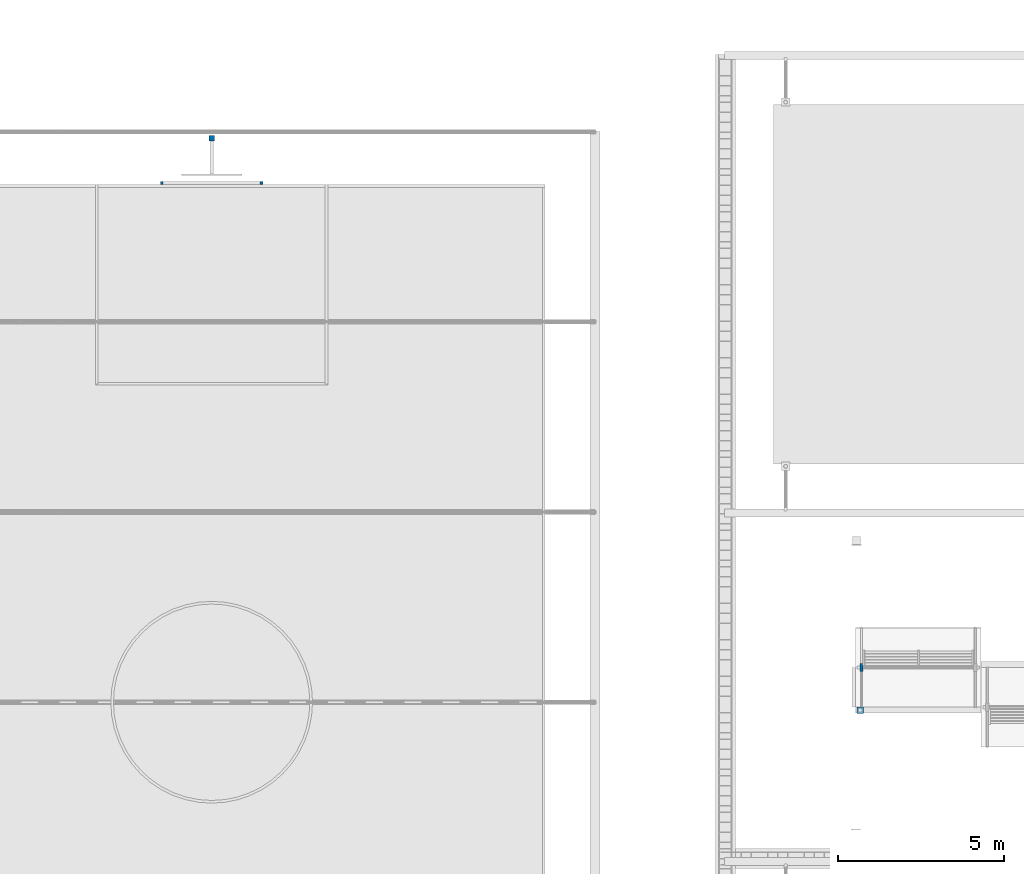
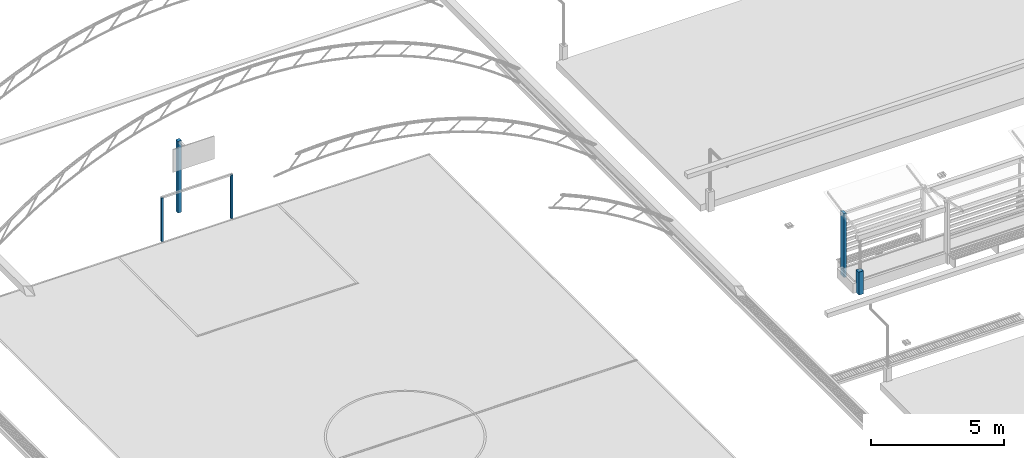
# One storey, part 5 of 90: 5 columns.
"""IFC2X3 building model written with IfcOpenShell, lengths in metres."""

import ifcopenshell
import ifcopenshell.guid

model = None  # the IFC model being written
_history = None  # IfcOwnerHistory: only IFC2X3 demands one
_inside = {}  # id of a spatial element -> (the spatial element, [elements in it])
_under = {}  # id of a project, library or spatial element -> (it, [spatial elements below it])
_declared = {}  # id of a project -> (the project, [libraries it declares])
_typed = {}  # id of a type object -> (the type object, [elements of that type])
_made_of = {}  # id of a material, layer set ... -> (it, [elements and type objects made of it])


def new_model(schema):
    """Start an empty IFC model of exactly this schema.

    Asked for "IFC4X3", IfcOpenShell would pick the latest addendum, in which some entities
    have other attributes; the version numbers below select the first issue.
    IFC2X3 requires an IfcOwnerHistory on every rooted entity: one is made here for all.
    """
    global model, _history
    if schema == "IFC4X3":
        model = ifcopenshell.file(schema_version=(4, 3, 0, 0))
    else:
        model = ifcopenshell.file(schema=schema)
    _inside.clear()
    _under.clear()
    _declared.clear()
    _typed.clear()
    _made_of.clear()
    _history = None
    if model.schema == "IFC2X3":
        org = make("IfcOrganization", Name="unknown")
        user = make(
            "IfcPersonAndOrganization",
            ThePerson=make("IfcPerson", FamilyName="unknown"),
            TheOrganization=org,
        )
        app = make(
            "IfcApplication",
            ApplicationDeveloper=org,
            Version="unknown",
            ApplicationFullName="unknown",
            ApplicationIdentifier="unknown",
        )
        _history = make(
            "IfcOwnerHistory",
            OwningUser=user,
            OwningApplication=app,
            ChangeAction="ADDED",
            CreationDate=0,
        )
    return model


def make(cls, **values):
    """One entity of the class cls with the attributes given. An attribute that is None is left unset."""
    return model.create_entity(
        cls, **{name: value for name, value in values.items() if value is not None}
    )


def rooted(cls, **values):
    """An entity with a GlobalId (a new one), such as an element, a storey or a relation."""
    return make(cls, GlobalId=ifcopenshell.guid.new(), OwnerHistory=_history, **values)


def si_unit(unit_type, name, prefix=None):
    """IfcSIUnit, for example si_unit("LENGTHUNIT", "METRE", prefix="MILLI")."""
    return make("IfcSIUnit", UnitType=unit_type, Prefix=prefix, Name=name)


def assignment(units):
    """IfcUnitAssignment: the units of a project."""
    return None if units is None else make("IfcUnitAssignment", Units=units)


def point(xyz):
    """IfcCartesianPoint."""
    return None if xyz is None else make("IfcCartesianPoint", Coordinates=xyz)


def direction(xyz):
    """IfcDirection."""
    return None if xyz is None else make("IfcDirection", DirectionRatios=xyz)


def frame(location, z_axis=None, x_axis=None):
    """IfcAxis2Placement3D, a coordinate frame: its origin and axes. An axis left out is left unset."""
    return make(
        "IfcAxis2Placement3D",
        Location=point(location),
        Axis=direction(z_axis),
        RefDirection=direction(x_axis),
    )


def origin():
    """The frame at (0, 0, 0) with its axes left unset."""
    return frame((0.0, 0.0, 0.0))


def origin_with_axes():
    """The frame at (0, 0, 0) with the z axis (0, 0, 1) and the x axis (1, 0, 0) written out."""
    return frame((0.0, 0.0, 0.0), z_axis=(0.0, 0.0, 1.0), x_axis=(1.0, 0.0, 0.0))


def place(relative_to, where):
    """IfcLocalPlacement: puts the frame where relative to a parent placement (None: the world)."""
    return make(
        "IfcLocalPlacement", PlacementRelTo=relative_to, RelativePlacement=where
    )


def context(
    kind, dimensions, precision=None, world=None, true_north=None, identifier=None
):
    """IfcGeometricRepresentationContext, for example the 3D "Model" context."""
    return make(
        "IfcGeometricRepresentationContext",
        ContextIdentifier=identifier,
        ContextType=kind,
        CoordinateSpaceDimension=dimensions,
        Precision=precision,
        WorldCoordinateSystem=world,
        TrueNorth=true_north,
    )


def subcontext(parent, identifier, kind, view, scale=None):
    """IfcGeometricRepresentationSubContext, for example "Body" below "Model"."""
    return make(
        "IfcGeometricRepresentationSubContext",
        ContextIdentifier=identifier,
        ContextType=kind,
        ParentContext=parent,
        TargetScale=scale,
        TargetView=view,
    )


def project(units=None, contexts=None):
    """IfcProject with its units and contexts."""
    return rooted(
        "IfcProject",
        Name="project",
        RepresentationContexts=contexts,
        UnitsInContext=assignment(units),
    )


def spatial(cls, under=None, at=None, **own):
    """A site, building, storey or space (cls), placed at a placement, below another one or the project."""
    s = rooted(cls, ObjectPlacement=at, **own)
    if under is not None:
        _under.setdefault(under.id(), (under, []))[1].append(s)
    return s


def faces_of(points, faces, orient=None, outer=None):
    """IfcFace entities. A face is a list of loops; a loop is a list of indices into points, from 0.

    orient and outer hold one flag for each loop. By default every Orientation is true, the
    first loop of a face is its IfcFaceOuterBound and the others are IfcFaceBound.
    """
    made = []
    for i, loops in enumerate(faces):
        bounds = []
        for j, loop in enumerate(loops):
            is_outer = j == 0 if outer is None else outer[i][j]
            bounds.append(
                make(
                    "IfcFaceOuterBound" if is_outer else "IfcFaceBound",
                    Bound=make("IfcPolyLoop", Polygon=[points[k] for k in loop]),
                    Orientation=True if orient is None else orient[i][j],
                )
            )
        made.append(make("IfcFace", Bounds=bounds))
    return made


def faceted_brep(points, faces, orient=None, outer=None, voids=None):
    """IfcFacetedBrep: a solid bounded by flat faces; with voids (closed shells), ...WithVoids."""
    shared = [point(p) for p in points]
    hull = make("IfcClosedShell", CfsFaces=faces_of(shared, faces, orient, outer))
    if voids is None:
        return make("IfcFacetedBrep", Outer=hull)
    return make(
        "IfcFacetedBrepWithVoids",
        Outer=hull,
        Voids=[
            make(cls, CfsFaces=faces_of(shared, fs, o, b)) for cls, fs, o, b in voids
        ],
    )


def shape(context_of_items, identifier, shape_type, items):
    """IfcShapeRepresentation: the items that make up one representation, for example the "Body"."""
    return make(
        "IfcShapeRepresentation",
        ContextOfItems=context_of_items,
        RepresentationIdentifier=identifier,
        RepresentationType=shape_type,
        Items=items,
    )


def made_of(thing, what):
    """Note that an element or type object is made of a material, layer set ...; save() writes the relation."""
    if what is not None:
        _made_of.setdefault(what.id(), (what, []))[1].append(thing)
    return thing


def element(
    cls,
    number,
    at=None,
    inside=None,
    cuts=None,
    type_object=None,
    material=None,
    context=None,
    identifier="Body",
    shape_type=None,
    held_by="IfcProductDefinitionShape",
    body=None,
    shapes=None,
    **own,
):
    """One element of the class cls, such as IfcWall. Its Tag is "e" and its number.

    at: its placement. inside: the storey or other place that contains it. cuts: it is an
    opening in that element (IfcRelVoidsElement). A single representation is given by context,
    identifier, shape_type and body (its items); several are given by shapes. held_by: the class
    of the entity that holds the representations. save() writes the other relations.
    """
    e = rooted(cls, Tag="e%d" % number, ObjectPlacement=at, **own)
    if body is not None:
        shapes = [shape(context, identifier, shape_type, body)]
    if shapes is not None:
        e.Representation = make(held_by, Representations=shapes)
    if inside is not None:
        _inside.setdefault(inside.id(), (inside, []))[1].append(e)
    if cuts is not None:
        rooted(
            "IfcRelVoidsElement", RelatingBuildingElement=cuts, RelatedOpeningElement=e
        )
    if type_object is not None:
        _typed.setdefault(type_object.id(), (type_object, []))[1].append(e)
    return made_of(e, material)


def aggregate(whole, parts):
    """IfcRelAggregates: a whole, such as a stair, and the parts it consists of."""
    return rooted("IfcRelAggregates", RelatingObject=whole, RelatedObjects=parts)


def save(model, path):
    """Write the relations noted so far, then the file.

    IfcRelAggregates (storeys below a building ...), IfcRelContainedInSpatialStructure (elements
    in a storey), IfcRelDefinesByType, IfcRelAssociatesMaterial and IfcRelDeclares: one each for
    every whole, place, type object, material and project.
    """
    for whole, parts in _under.values():
        aggregate(whole, parts)
    for where, things in _inside.values():
        rooted(
            "IfcRelContainedInSpatialStructure",
            RelatedElements=things,
            RelatingStructure=where,
        )
    for kind, things in _typed.values():
        rooted("IfcRelDefinesByType", RelatedObjects=things, RelatingType=kind)
    for what, things in _made_of.values():
        rooted("IfcRelAssociatesMaterial", RelatedObjects=things, RelatingMaterial=what)
    for by, libraries in _declared.values():
        rooted("IfcRelDeclares", RelatingContext=by, RelatedDefinitions=libraries)
    model.write(path)


model = new_model("IFC2X3")

# Units and contexts
model_context = context("Model", 3, precision=1e-05, world=origin_with_axes())
body_context = subcontext(model_context, "Body", "Model", "MODEL_VIEW")
ifc_project = project(units=[si_unit("LENGTHUNIT", "METRE"), si_unit("AREAUNIT", "SQUARE_METRE"), si_unit("VOLUMEUNIT", "CUBIC_METRE"), si_unit("PLANEANGLEUNIT", "RADIAN")], contexts=[model_context])

# Site, building, storey
site_placement = place(None, origin_with_axes())
site = spatial("IfcSite", under=ifc_project, at=site_placement, Name="Predio Los Mangos - Morales, San Martín", CompositionType="ELEMENT")
building_placement = place(site_placement, origin())
building = spatial("IfcBuilding", under=site, at=building_placement, Name="Hogar de Refugio Temporal", CompositionType="ELEMENT")
storey_placement = place(building_placement, origin())
storey = spatial("IfcBuildingStorey", under=building, at=storey_placement, Name="NIVEL 1 (NPT +0.00)", CompositionType="ELEMENT", Elevation=0.0)

# Columns
column_1_placement = place(storey_placement, origin())
element("IfcColumn", 1, at=column_1_placement, inside=storey, Name="poste_arco", ObjectType="Columna", context=body_context, shape_type="Brep", body=[
    faceted_brep([(13.51, 125.41, 0.12), (13.51, 125.49, 0.12), (13.59, 125.49, 0.12), (13.59, 125.41, 0.12), (13.51, 125.41, 2.12), (13.59, 125.41, 2.12), (13.59, 125.49, 2.12), (13.51, 125.49, 2.12)], [[[0, 1, 2, 3]], [[4, 5, 6, 7]], [[0, 3, 5, 4]], [[3, 2, 6, 5]], [[2, 1, 7, 6]], [[1, 0, 4, 7]]]),
])
column_2_placement = place(storey_placement, origin())
element("IfcColumn", 2, at=column_2_placement, inside=storey, Name="poste_arco", ObjectType="Columna", context=body_context, shape_type="Brep", body=[
    faceted_brep([(16.51, 125.41, 0.12), (16.51, 125.49, 0.12), (16.59, 125.49, 0.12), (16.59, 125.41, 0.12), (16.51, 125.41, 2.12), (16.59, 125.41, 2.12), (16.59, 125.49, 2.12), (16.51, 125.49, 2.12)], [[[0, 1, 2, 3]], [[4, 5, 6, 7]], [[0, 3, 5, 4]], [[3, 2, 6, 5]], [[2, 1, 7, 6]], [[1, 0, 4, 7]]]),
])
column_3_placement = place(storey_placement, origin())
element("IfcColumn", 3, at=column_3_placement, inside=storey, Name="poste_basquet", ObjectType="Columna", context=body_context, shape_type="Brep", body=[
    faceted_brep([(14.97, 126.72, 0.12), (14.97, 126.88, 0.12), (15.13, 126.88, 0.12), (15.13, 126.72, 0.12), (14.97, 126.72, 3.4), (15.13, 126.72, 3.4), (15.13, 126.88, 3.4), (14.97, 126.88, 3.4)], [[[0, 1, 2, 3]], [[4, 5, 6, 7]], [[0, 3, 5, 4]], [[3, 2, 6, 5]], [[2, 1, 7, 6]], [[1, 0, 4, 7]]]),
])
column_4_placement = place(storey_placement, origin())
element("IfcColumn", 4, at=column_4_placement, inside=storey, Name="oc01_columna", ObjectType="Columna", context=body_context, shape_type="Brep", body=[
    faceted_brep([(34.685, 110.975, 0.0), (34.685, 110.725, 0.0), (34.585, 110.725, 0.0), (34.585, 110.975, 0.0), (34.685, 110.975, 2.93), (34.585, 110.975, 2.93), (34.585, 110.725, 2.93), (34.685, 110.725, 2.93)], [[[0, 1, 2, 3]], [[4, 5, 6, 7]], [[0, 3, 5, 4]], [[3, 2, 6, 5]], [[2, 1, 7, 6]], [[1, 0, 4, 7]]]),
])
column_5_placement = place(storey_placement, origin())
element("IfcColumn", 5, at=column_5_placement, inside=storey, Name="oc01_falsa_columna", ObjectType="Falsa columna", context=body_context, shape_type="Brep", body=[
    faceted_brep([(34.695, 109.66, 0.0), (34.695, 109.46, 0.0), (34.495, 109.46, 0.0), (34.495, 109.66, 0.0), (34.695, 109.66, 1.05), (34.495, 109.66, 1.05), (34.495, 109.46, 1.05), (34.695, 109.46, 1.05)], [[[0, 1, 2, 3]], [[4, 5, 6, 7]], [[0, 3, 5, 4]], [[3, 2, 6, 5]], [[2, 1, 7, 6]], [[1, 0, 4, 7]]]),
])

save(model, "model.ifc")
